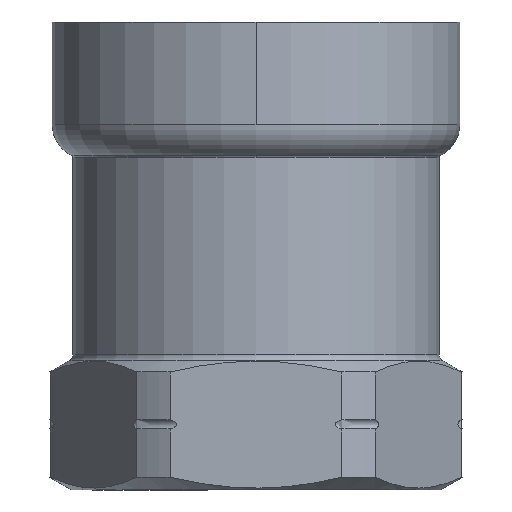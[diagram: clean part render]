
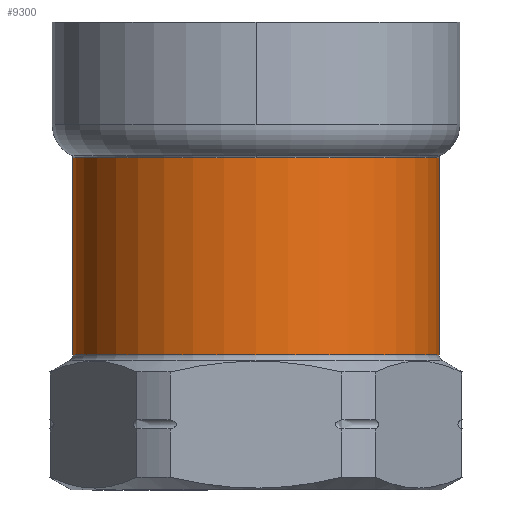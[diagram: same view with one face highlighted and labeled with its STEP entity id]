
A CAD part, front view. The second image highlights one B-rep face of the part: STEP entity #9300.
In plain terms, the highlighted cylindrical face has radius 27.85 mm (diameter 55.7 mm), a partial arc.
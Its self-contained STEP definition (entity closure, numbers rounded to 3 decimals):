
#8850=CARTESIAN_POINT('',(-18.163,-60.,0.));
#8860=DIRECTION('',(-1.,0.,0.));
#8870=DIRECTION('',(0.,0.,1.));
#8880=AXIS2_PLACEMENT_3D('',#8850,#8860,#8870);
#8890=CYLINDRICAL_SURFACE('',#8880,27.85);
#8900=CARTESIAN_POINT('',(-18.163,-60.,-27.85));
#8910=DIRECTION('',(-1.,0.,0.));
#8920=VECTOR('',#8910,1.);
#8930=LINE('',#8900,#8920);
#8940=CARTESIAN_POINT('',(-8.401,-60.,-27.85));
#8950=VERTEX_POINT('',#8940);
#8960=CARTESIAN_POINT('',(-38.37,-60.,-27.85));
#8970=VERTEX_POINT('',#8960);
#8980=EDGE_CURVE('',#8950,#8970,#8930,.T.);
#8990=ORIENTED_EDGE('',*,*,#8980,.F.);
#9000=CARTESIAN_POINT('',(-38.37,-60.,0.));
#9010=DIRECTION('',(-1.,0.,0.));
#9020=DIRECTION('',(0.,1.,0.));
#9030=AXIS2_PLACEMENT_3D('',#9000,#9010,#9020);
#9040=CIRCLE('',#9030,27.85);
#9050=CARTESIAN_POINT('',(-38.37,-87.85,0.)
);
#9060=VERTEX_POINT('',#9050);
#9070=EDGE_CURVE('',#8970,#9060,#9040,.T.);
#9080=ORIENTED_EDGE('',*,*,#9070,.F.);
#9090=CARTESIAN_POINT('',(-38.37,-60.,27.85));
#9100=VERTEX_POINT('',#9090);
#9110=EDGE_CURVE('',#9060,#9100,#9040,.T.);
#9120=ORIENTED_EDGE('',*,*,#9110,.F.);
#9130=CARTESIAN_POINT('',(-18.163,-60.,27.85));
#9140=DIRECTION('',(-1.,0.,0.));
#9150=VECTOR('',#9140,1.);
#9160=LINE('',#9130,#9150);
#9170=CARTESIAN_POINT('',(-8.401,-60.,27.85));
#9180=VERTEX_POINT('',#9170);
#9190=EDGE_CURVE('',#9180,#9100,#9160,.T.);
#9200=ORIENTED_EDGE('',*,*,#9190,.T.);
#9210=CARTESIAN_POINT('',(-8.401,-60.,0.));
#9220=DIRECTION('',(1.,0.,0.));
#9230=DIRECTION('',(0.,0.,1.));
#9240=AXIS2_PLACEMENT_3D('',#9210,#9220,#9230);
#9250=CIRCLE('',#9240,27.85);
#9260=EDGE_CURVE('',#9180,#8950,#9250,.T.);
#9270=ORIENTED_EDGE('',*,*,#9260,.F.);
#9280=EDGE_LOOP('',(#9270,#9200,#9120,#9080,#8990));
#9290=FACE_OUTER_BOUND('',#9280,.T.);
#9300=ADVANCED_FACE('',(#9290),#8890,.T.);
